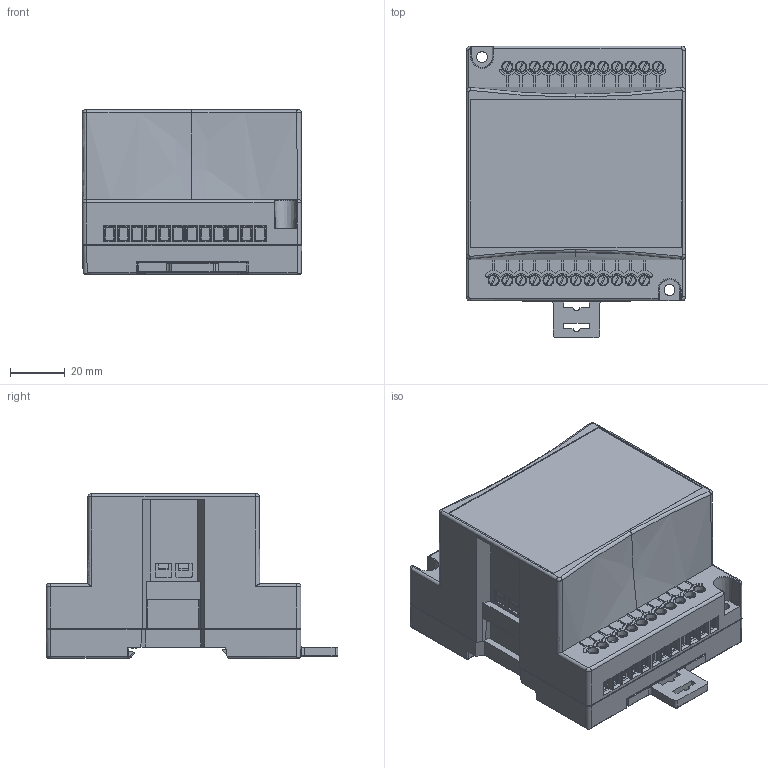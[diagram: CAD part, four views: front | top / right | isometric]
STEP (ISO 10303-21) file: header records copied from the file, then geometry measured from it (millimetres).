
FILE_DESCRIPTION (( 'STEP AP203' ), '1' );
FILE_NAME ('IO-Expansion.STEP', '2011-12-14T11:09:25', ( 'unitronics' ), ( 'unitronics' ), 'SwSTEP 2.0', 'SolidWorks 2011', '' );
FILE_SCHEMA (( 'CONFIG_CONTROL_DESIGN' ));
Length unit declared in the file: millimetre
Products named in the file (2): IO-Expansion; Part2^EXP-ALL
Assembly tree (1 placements, depth 2):
  IO-Expansion
    Part2^EXP-ALL
Bounding box: 80.14 x 106.47 x 59.9 mm (x, y, z)
Volume: 326310.7 mm3; surface area: 63263.5 mm2
Topology: 1 solids, 7 shells, 1918 faces, 5122 edges, 3344 vertices
Faces by surface type: plane 1261, cylinder 494, bspline 67, cone 57, torus 24, sphere 15
Entity records: 63625 total; most frequent: CARTESIAN_POINT 15545, ORIENTED_EDGE 10224, DIRECTION 9463, EDGE_CURVE 5112, VECTOR 3655, LINE 3655, VERTEX_POINT 3344, AXIS2_PLACEMENT_3D 2904
